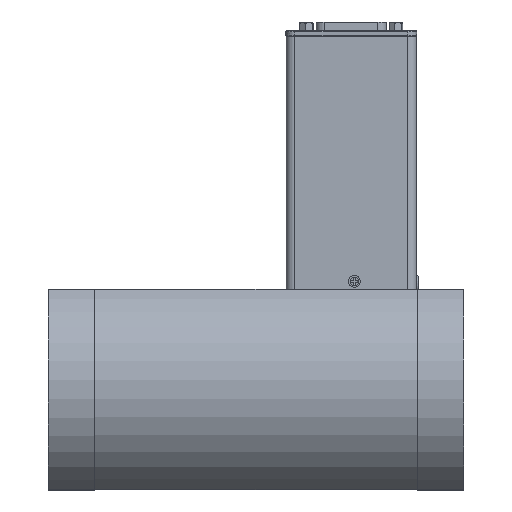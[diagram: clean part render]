
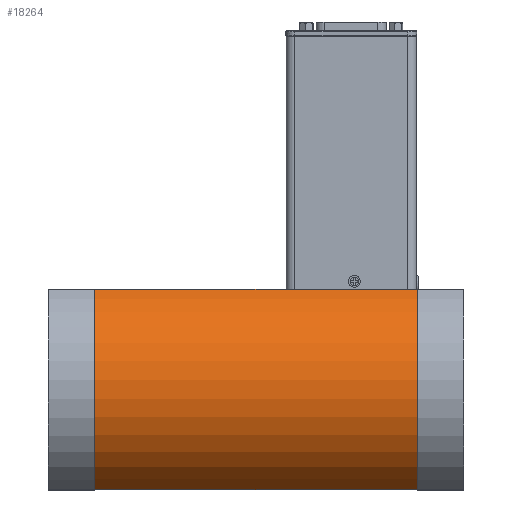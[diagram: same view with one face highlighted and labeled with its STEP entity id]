
A CAD part, top view. The second image highlights one B-rep face of the part: STEP entity #18264.
In plain terms, the highlighted cylindrical face has radius 42 mm (diameter 84 mm), a partial arc.
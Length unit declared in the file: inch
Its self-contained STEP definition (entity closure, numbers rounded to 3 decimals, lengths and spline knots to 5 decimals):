
#4779 = CYLINDRICAL_SURFACE ( 'NONE', #36196, 1.65354 ) ;
#4951 = CARTESIAN_POINT ( 'NONE',  ( 2.3622, 1.4685, 0.01239 ) ) ;
#5050 = DIRECTION ( 'NONE',  ( -1., 0., 0. ) ) ;
#5844 = VERTEX_POINT ( 'NONE', #6069 ) ;
#6069 = CARTESIAN_POINT ( 'NONE',  ( -2.3622, 0., 0.77246 ) ) ;
#6203 = ORIENTED_EDGE ( 'NONE', *, *, #10085, .T. ) ;
#6910 = ORIENTED_EDGE ( 'NONE', *, *, #12979, .F. ) ;
#7543 = VECTOR ( 'NONE', #36430, 39.37008 ) ;
#8265 = CARTESIAN_POINT ( 'NONE',  ( -12.3622, 2.93701, 0.77246 ) ) ;
#8446 = CARTESIAN_POINT ( 'NONE',  ( -2.3622, 1.4685, 0.01239 ) ) ;
#10085 = EDGE_CURVE ( 'NONE', #5844, #25207, #22428, .T. ) ;
#11873 = DIRECTION ( 'NONE',  ( 0., 1., 0. ) ) ;
#12979 = EDGE_CURVE ( 'NONE', #5844, #37666, #44198, .T. ) ;
#13371 = DIRECTION ( 'NONE',  ( -1., 0., 0. ) ) ;
#14594 = DIRECTION ( 'NONE',  ( -1., 0., 0. ) ) ;
#15656 = VECTOR ( 'NONE', #5050, 39.37008 ) ;
#17913 = EDGE_CURVE ( 'NONE', #24470, #37666, #33048, .T. ) ;
#18264 = ADVANCED_FACE ( 'NONE', ( #35548 ), #4779, .T. ) ;
#18692 = EDGE_CURVE ( 'NONE', #25207, #24470, #25954, .T. ) ;
#21330 = ORIENTED_EDGE ( 'NONE', *, *, #18692, .T. ) ;
#22428 = LINE ( 'NONE', #29537, #7543 ) ;
#24458 = CARTESIAN_POINT ( 'NONE',  ( 2.3622, 2.93701, 0.77246 ) ) ;
#24470 = VERTEX_POINT ( 'NONE', #24458 ) ;
#25207 = VERTEX_POINT ( 'NONE', #27327 ) ;
#25954 = CIRCLE ( 'NONE', #29642, 1.65354 ) ;
#27327 = CARTESIAN_POINT ( 'NONE',  ( 2.3622, 0., 0.77246 ) ) ;
#27361 = DIRECTION ( 'NONE',  ( 0., 1., 0. ) ) ;
#29163 = CARTESIAN_POINT ( 'NONE',  ( -2.3622, 2.93701, 0.77246 ) ) ;
#29322 = DIRECTION ( 'NONE',  ( 1., 0., 0. ) ) ;
#29537 = CARTESIAN_POINT ( 'NONE',  ( -2.3622, 0., 0.77246 ) ) ;
#29642 = AXIS2_PLACEMENT_3D ( 'NONE', #4951, #14594, #31821 ) ;
#29916 = CARTESIAN_POINT ( 'NONE',  ( -2.3622, 1.4685, 0.01239 ) ) ;
#30083 = ORIENTED_EDGE ( 'NONE', *, *, #17913, .T. ) ;
#30229 = AXIS2_PLACEMENT_3D ( 'NONE', #29916, #13371, #27361 ) ;
#31821 = DIRECTION ( 'NONE',  ( 0., 1., 0. ) ) ;
#32338 = EDGE_LOOP ( 'NONE', ( #30083, #6910, #6203, #21330 ) ) ;
#33048 = LINE ( 'NONE', #8265, #15656 ) ;
#35548 = FACE_OUTER_BOUND ( 'NONE', #32338, .T. ) ;
#36196 = AXIS2_PLACEMENT_3D ( 'NONE', #8446, #29322, #11873 ) ;
#36430 = DIRECTION ( 'NONE',  ( 1., 0., 0. ) ) ;
#37666 = VERTEX_POINT ( 'NONE', #29163 ) ;
#44198 = CIRCLE ( 'NONE', #30229, 1.65354 ) ;
